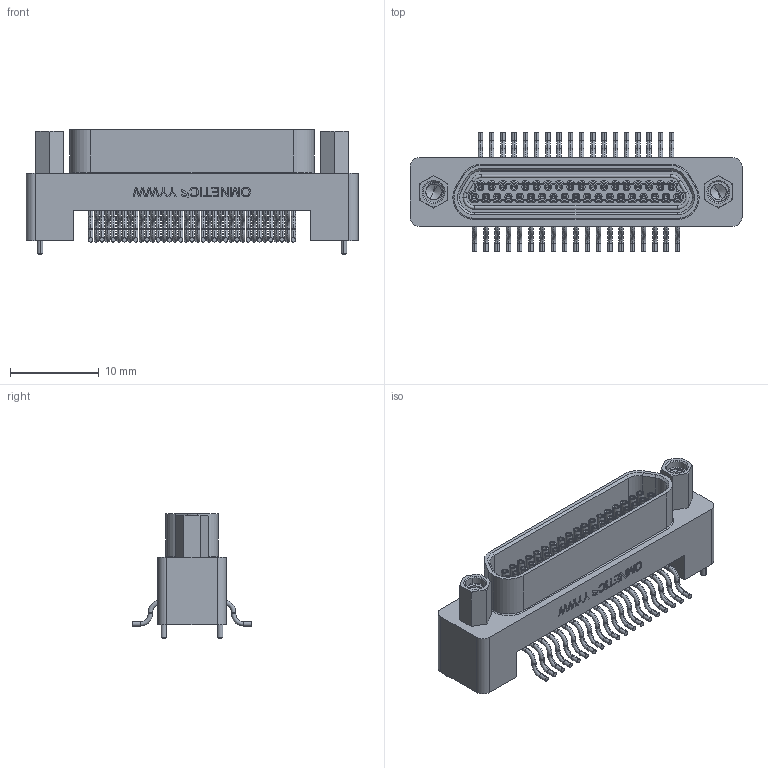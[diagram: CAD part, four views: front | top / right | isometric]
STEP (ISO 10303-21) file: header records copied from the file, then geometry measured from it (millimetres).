
FILE_DESCRIPTION (( 'STEP AP214' ), '1' );
FILE_NAME ('A99701-037 REV A.STEP', '2012-11-08T22:08:44', ( '' ), ( '' ), 'SwSTEP 2.0', 'SolidWorks 2012', '' );
FILE_SCHEMA (( 'AUTOMOTIVE_DESIGN' ));
Length unit declared in the file: inch
Products named in the file (1): A99701-037 (REV 2)
Bounding box: 37.47 x 13.51 x 14.1 mm (x, y, z)
Volume: 1748 mm3; surface area: 3777.4 mm2
Topology: 1 solids, 42 shells, 1594 faces, 3780 edges, 2333 vertices
Faces by surface type: cylinder 732, plane 350, torus 309, cone 151, bspline 52
Entity records: 57094 total; most frequent: CARTESIAN_POINT 19544, DIRECTION 8331, ORIENTED_EDGE 7404, EDGE_CURVE 3702, AXIS2_PLACEMENT_3D 3503, VERTEX_POINT 2333, CIRCLE 1960, EDGE_LOOP 1813
